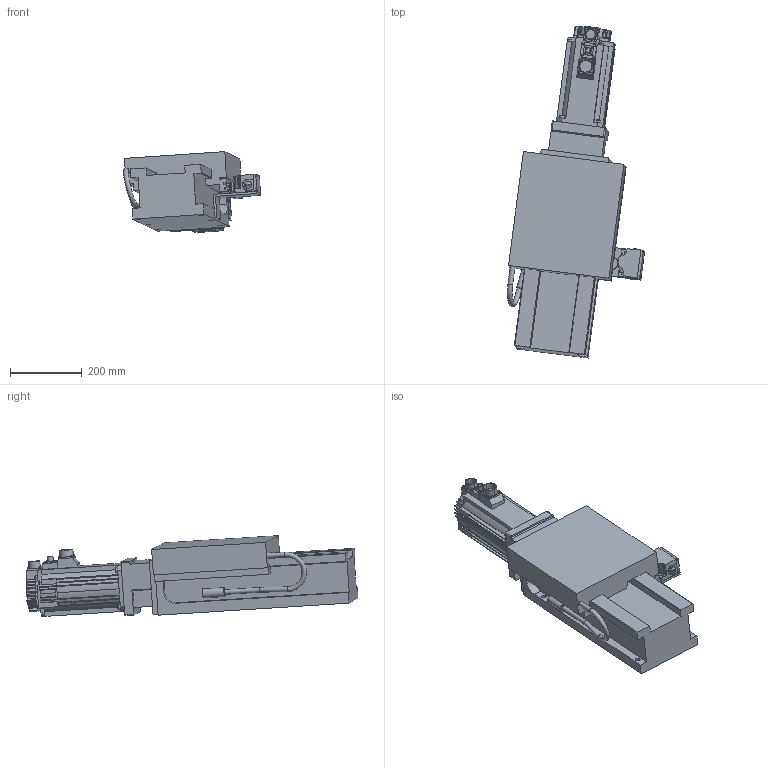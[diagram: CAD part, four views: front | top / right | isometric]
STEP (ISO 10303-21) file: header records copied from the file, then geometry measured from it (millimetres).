
FILE_DESCRIPTION((''),'2;1');
FILE_NAME('C:\VaultWork\Zeichnungen\Maßblätter\H242\VE01404-2-0 Maßblatt H242-200Hub.stp','2009-05-15T11:09:54',('Test'),(''),'Autodesk Inventor 2008','Autodesk Inventor 2008','');
FILE_SCHEMA(('AUTOMOTIVE_DESIGN { 1 0 10303 214 1 1 1 1 }'));
Length unit declared in the file: millimetre
Products named in the file (1): VE01404-2-0 Maßblatt H242-200Hub
Bounding box: 381.57 x 923.16 x 224.4 mm (x, y, z)
Volume: 23739998.3 mm3; surface area: 1118617.3 mm2
Topology: 1 solids, 5 shells, 906 faces, 2382 edges, 1550 vertices
Faces by surface type: plane 612, cylinder 251, cone 19, torus 14, bspline 8, sphere 2
Full cylindrical faces by diameter (mm): 3.8 x2, 4 x2, 4.917 x2, 5.9 x2, 6 x2, 6.6 x2, 8 x4, 9.98 x2, 10 x3, 13 x7, 20 x2, 25 x1
Entity records: 28711 total; most frequent: CARTESIAN_POINT 5296, DIRECTION 4648, ORIENTED_EDGE 4598, EDGE_CURVE 2299, VECTOR 1640, LINE 1640, VERTEX_POINT 1527, AXIS2_PLACEMENT_3D 1504
